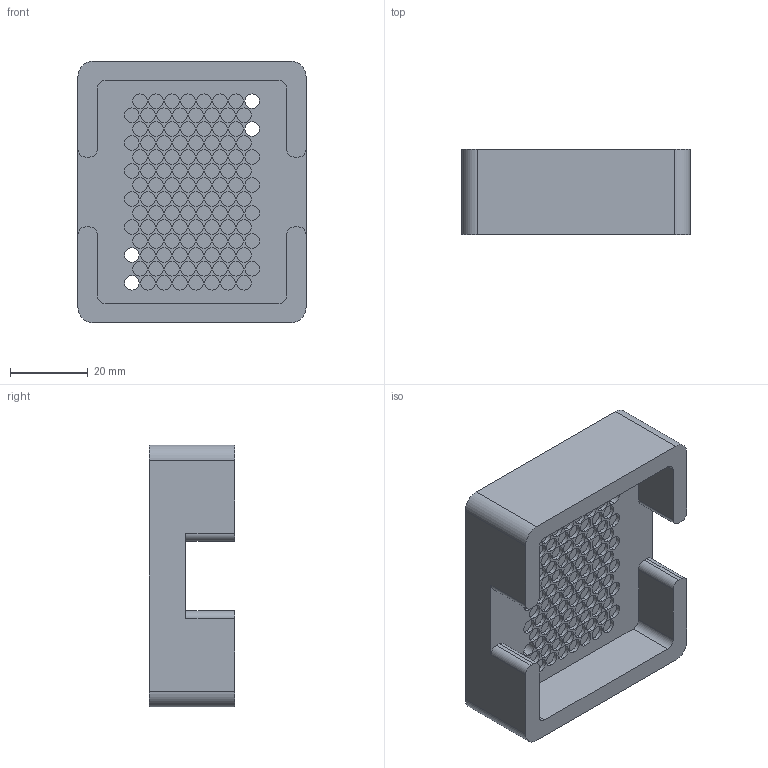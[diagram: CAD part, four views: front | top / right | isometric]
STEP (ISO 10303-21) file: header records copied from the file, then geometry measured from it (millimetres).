
FILE_DESCRIPTION (( 'STEP AP214' ), '1' );
FILE_NAME ('Press Tool GM3 - AlN nominal.STEP', '2024-05-22T19:34:40', ( '' ), ( '' ), 'SwSTEP 2.0', 'SolidWorks 2024', '' );
FILE_SCHEMA (( 'AUTOMOTIVE_DESIGN' ));
Length unit declared in the file: millimetre
Products named in the file (1): Press Tool GM3 - AlN nominal
Bounding box: 58.8 x 22 x 67.5 mm (x, y, z)
Volume: 47740.9 mm3; surface area: 16837.4 mm2
Topology: 1 solids, 1 shells, 366 faces, 768 edges, 512 vertices
Faces by surface type: cylinder 240, plane 126
Entity records: 10071 total; most frequent: DIRECTION 1982, CARTESIAN_POINT 1647, ORIENTED_EDGE 1536, AXIS2_PLACEMENT_3D 847, EDGE_CURVE 768, VERTEX_POINT 512, EDGE_LOOP 482, CIRCLE 480
